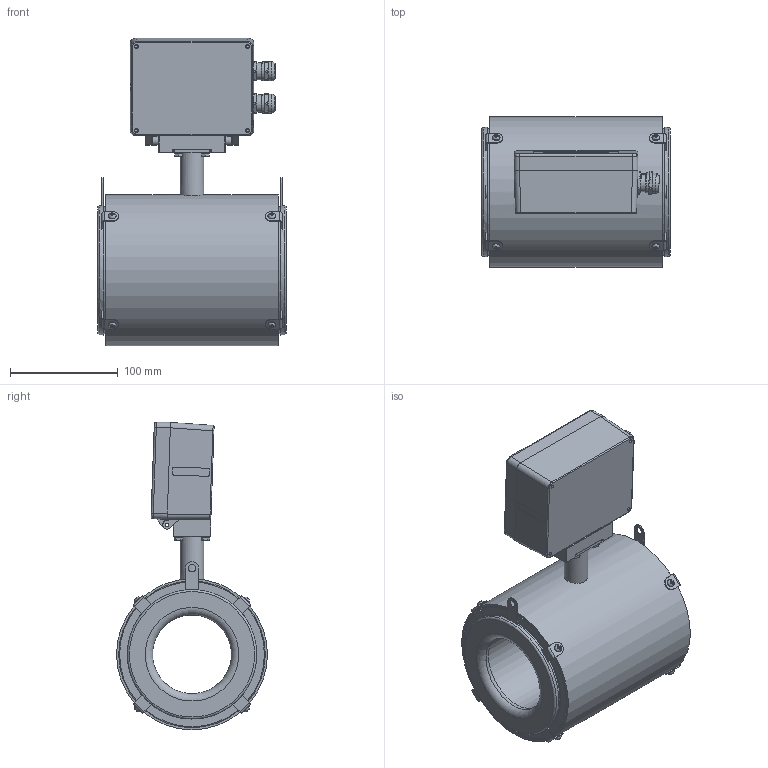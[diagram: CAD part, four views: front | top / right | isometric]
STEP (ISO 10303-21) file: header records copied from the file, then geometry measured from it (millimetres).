
FILE_DESCRIPTION(('STEP AP203'), '1');
FILE_NAME('Âçëåò ÝÌ ÏÐÎÔÈ DN80 Ñýíäâè÷', '', ('UNSPECIFIED'), ('UNSPECIFIED'), 'C3D Converter', 'C3D Toolkit', '');
FILE_SCHEMA(('CONFIG_CONTROL_DESIGN'));
Length unit declared in the file: millimetre
Products named in the file (1): ШКСД.407212.004-002-07
Bounding box: 175 x 140 x 285.37 mm (x, y, z)
Surface area: 409118.2 mm2
Topology: 2 solids, 11 shells, 1083 faces, 2611 edges, 1637 vertices
Faces by surface type: plane 588, cylinder 291, cone 90, bspline 68, torus 38, sphere 8
Full cylindrical faces by diameter (mm): 3.242 x18, 3.422 x2, 4 x14, 4.134 x1, 4.5 x10, 4.917 x2, 5 x8, 6 x4, 6.2 x2, 7 x10, 7.5 x4, 8.7 x2, 12 x4, 15 x4, 16 x8, 16.3 x2, 17.5 x4, 19 x1, 20.2 x1, 22 x1, 26 x2, 74 x1, 81 x2, 83 x2, 88 x1, 89 x1, 90 x2, 118 x2, 120 x2, 133 x2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
Entity records: 56812 total; most frequent: CARTESIAN_POINT 24088, DIRECTION 4843, ORIENTED_EDGE 4720, EDGE_CURVE 2366, AXIS2_PLACEMENT_3D 1833, VERTEX_POINT 1618, EDGE_LOOP 1450, LINE 1177
